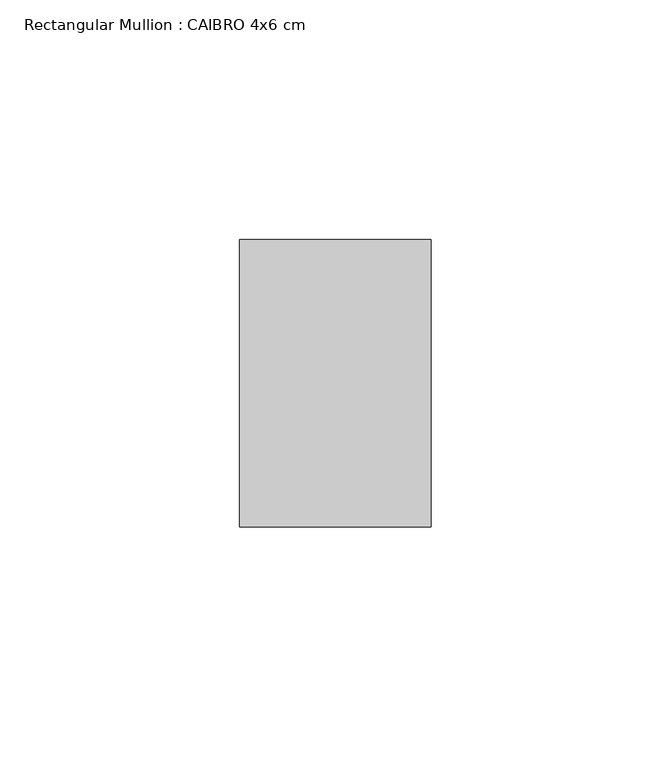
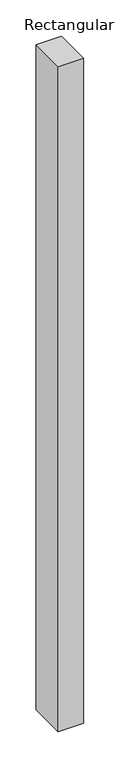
"""IFC4 building model written with IfcOpenShell, lengths in millimetres: member geometry, Rectangular Mullion : CAIBRO 4x6 cm."""

from ifc_helpers import new_model, si_unit, frame, origin, place, context, project, spatial, polyline, outline, extrude, source, transform, mapped, element, save


def rectangular_mullion_caibro_4x6_cm_8db0eb8b(model_context):
    return source(origin(), model_context, "Body", "SweptSolid", [
        extrude(outline(polyline([(0.0, 60.0), (0.0, 0.0), (-40.0, 0.0), (-40.0, 60.0), (0.0, 60.0)])), frame((0.0, 0.0, -1112.3061629), z_axis=(0.0, 0.0, 1.0), x_axis=(1.0, 0.0, 0.0)), (0.0, 0.0, 1.0), 1112.3061629),
    ])


if __name__ == "__main__":
    model = new_model("IFC4")
    model_context = context("Model", 3, world=origin())
    ifc_project = project(units=[si_unit("LENGTHUNIT", "METRE", prefix="MILLI")], contexts=[model_context])
    site = spatial("IfcSite", under=ifc_project)
    building = spatial("IfcBuilding", under=site)
    placement = place(None, origin())
    rectangular_mullion_caibro_4x6_cm_shape = rectangular_mullion_caibro_4x6_cm_8db0eb8b(model_context)
    element("IfcMember", 1, ObjectType="Rectangular Mullion : CAIBRO 4x6 cm", at=placement, inside=building, context=model_context, shape_type="MappedRepresentation", body=[
        mapped(rectangular_mullion_caibro_4x6_cm_shape, transform((0.0, 0.0, 0.0), x_axis=(1.0, 0.0, 0.0), y_axis=(0.0, 1.0, 0.0), z_axis=(0.0, 0.0, 1.0))),
    ])
    save(model, "model.ifc")
